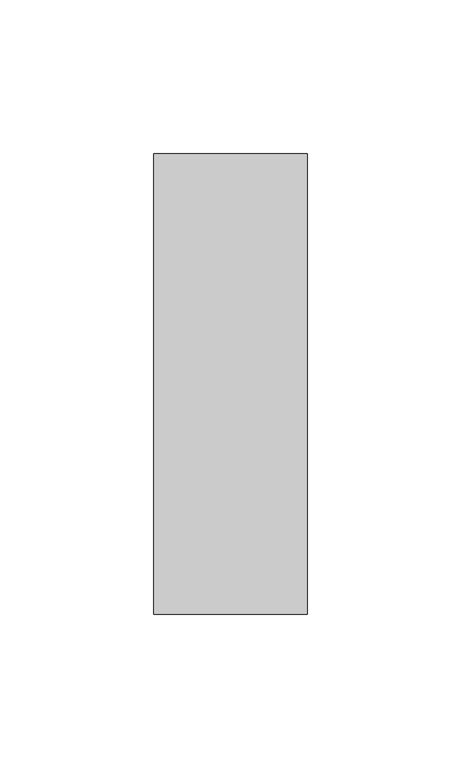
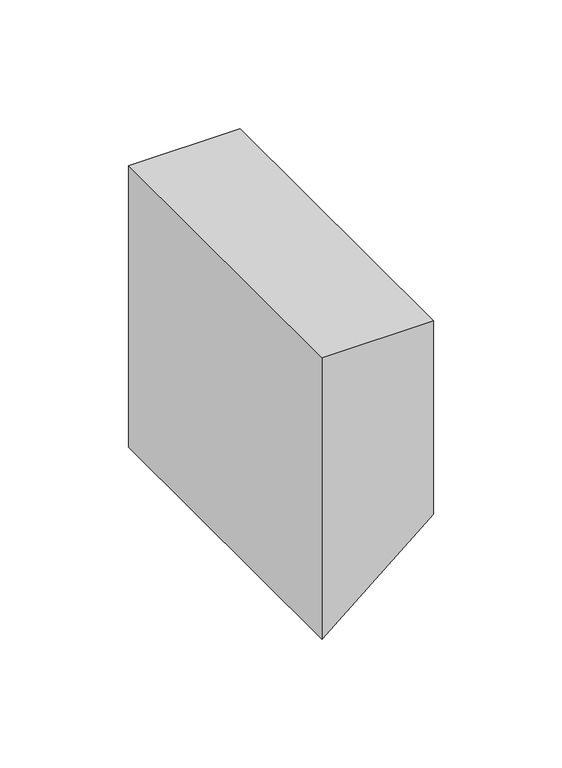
"""IFC4 building model written with IfcOpenShell, lengths in millimetres: member geometry, Прямоугольный импост : 50 x 150 мм."""

from ifc_helpers import new_model, si_unit, frame, origin, place, context, project, spatial, polyline, outline, extrude, source, transform, mapped, element, save


def member_a0d80cc9(model_context):
    return source(origin(), model_context, "Body", "SweptSolid", [
        extrude(outline(polyline([(0.0, 25.0), (0.0, -25.0), (-133.3560942, -25.0), (-91.5812899, 25.0), (0.0, 25.0)])), frame((0.0, -75.0, 0.0), z_axis=(0.0, 1.0, 0.0), x_axis=(0.0, 0.0, 1.0)), (0.0, 0.0, 1.0), 150.0),
    ])


if __name__ == "__main__":
    model = new_model("IFC4")
    model_context = context("Model", 3, world=origin())
    ifc_project = project(units=[si_unit("LENGTHUNIT", "METRE", prefix="MILLI")], contexts=[model_context])
    site = spatial("IfcSite", under=ifc_project)
    building = spatial("IfcBuilding", under=site)
    placement = place(None, origin())
    member_shape = member_a0d80cc9(model_context)
    element("IfcMember", 1, ObjectType="Прямоугольный импост : 50 x 150 мм", at=placement, inside=building, context=model_context, shape_type="MappedRepresentation", body=[
        mapped(member_shape, transform((0.0, 0.0, 0.0), x_axis=(1.0, 0.0, 0.0), y_axis=(0.0, 1.0, 0.0), z_axis=(0.0, 0.0, 1.0))),
    ])
    save(model, "model.ifc")
